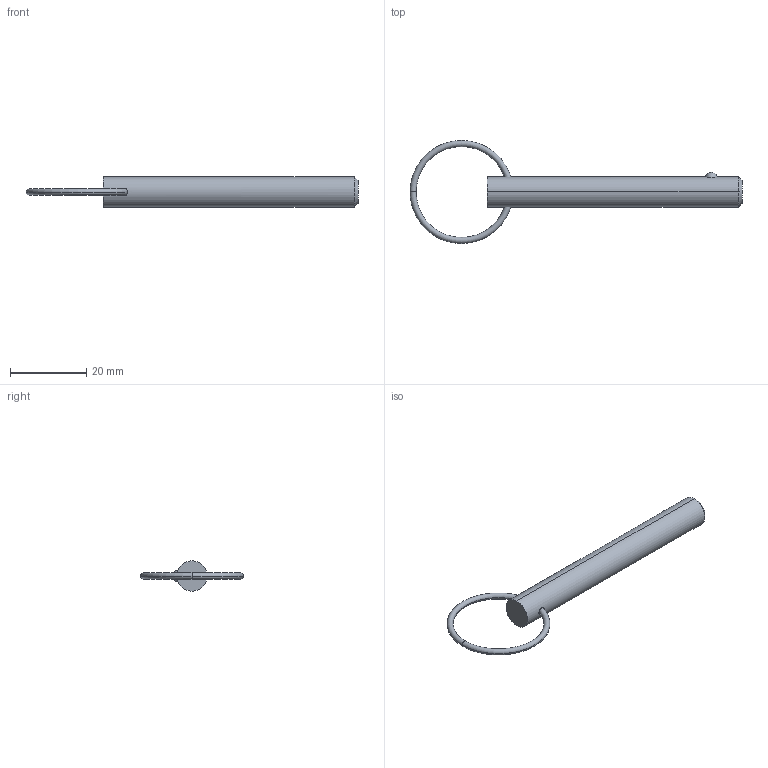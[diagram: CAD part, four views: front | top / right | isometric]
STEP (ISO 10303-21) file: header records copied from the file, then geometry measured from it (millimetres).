
FILE_DESCRIPTION (( 'STEP AP203' ), '1' );
FILE_NAME ('33012.W3120.step', '2024-11-01T14:08:17', ( '' ), ( '' ), 'SwSTEP 2.0', 'SolidWorks 2019', '' );
FILE_SCHEMA (( 'CONFIG_CONTROL_DESIGN' ));
Length unit declared in the file: millimetre
Products named in the file (3): Part1_33012.W3120; 33012.W3120; Part2_33012.W3120
Assembly tree (2 placements, depth 2):
  33012.W3120
    Part1_33012.W3120
    Part2_33012.W3120
Bounding box: 86.93 x 26.99 x 7.94 mm (x, y, z)
Volume: 3429 mm3; surface area: 2192.8 mm2
Topology: 2 solids, 2 shells, 16 faces, 31 edges, 18 vertices
Faces by surface type: torus 8, sphere 2, cone 2, cylinder 2, plane 2
Entity records: 829 total; most frequent: CARTESIAN_POINT 186, DIRECTION 88, ORIENTED_EDGE 62, AXIS2_PLACEMENT_3D 42, EDGE_CURVE 31, PERSON_AND_ORGANIZATION 26, CIRCLE 21, EDGE_LOOP 19
